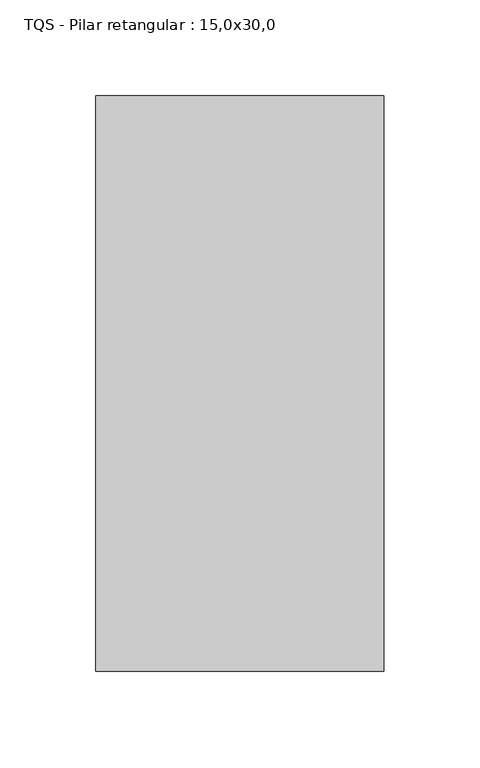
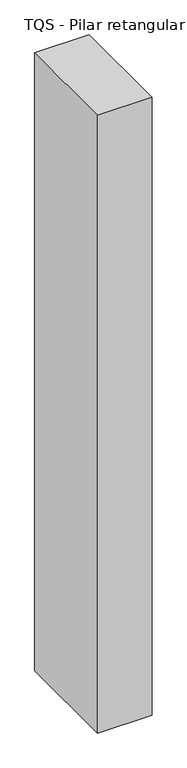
"""IFC4 building model written with IfcOpenShell, lengths in millimetres: column geometry, TQS - Pilar retangular : 15,0x30,0."""

from ifc_helpers import new_model, si_unit, frame, origin, place, context, project, spatial, polyline, outline, extrude, source, transform, mapped, element, save


def tqs_pilar_retangular_15_0x30_0_16e8f05b(model_context):
    return source(origin(), model_context, "Body", "SweptSolid", [
        extrude(outline(polyline([(75.0, 150.0), (75.0, -150.0), (-75.0, -150.0), (-75.0, 150.0), (75.0, 150.0)])), frame((0.0, 0.0, 900.0), z_axis=(0.0, 0.0, 1.0), x_axis=(1.0, 0.0, 0.0)), (0.0, 0.0, 1.0), 1800.0),
    ])


if __name__ == "__main__":
    model = new_model("IFC4")
    model_context = context("Model", 3, world=origin())
    ifc_project = project(units=[si_unit("LENGTHUNIT", "METRE", prefix="MILLI")], contexts=[model_context])
    site = spatial("IfcSite", under=ifc_project)
    building = spatial("IfcBuilding", under=site)
    placement = place(None, origin())
    tqs_pilar_retangular_15_0x30_0_shape = tqs_pilar_retangular_15_0x30_0_16e8f05b(model_context)
    element("IfcColumn", 1, ObjectType="TQS - Pilar retangular : 15,0x30,0", at=placement, inside=building, context=model_context, shape_type="MappedRepresentation", body=[
        mapped(tqs_pilar_retangular_15_0x30_0_shape, transform((0.0, 0.0, 0.0), x_axis=(1.0, 0.0, 0.0), y_axis=(0.0, 1.0, 0.0), z_axis=(0.0, 0.0, 1.0))),
    ])
    save(model, "model.ifc")
